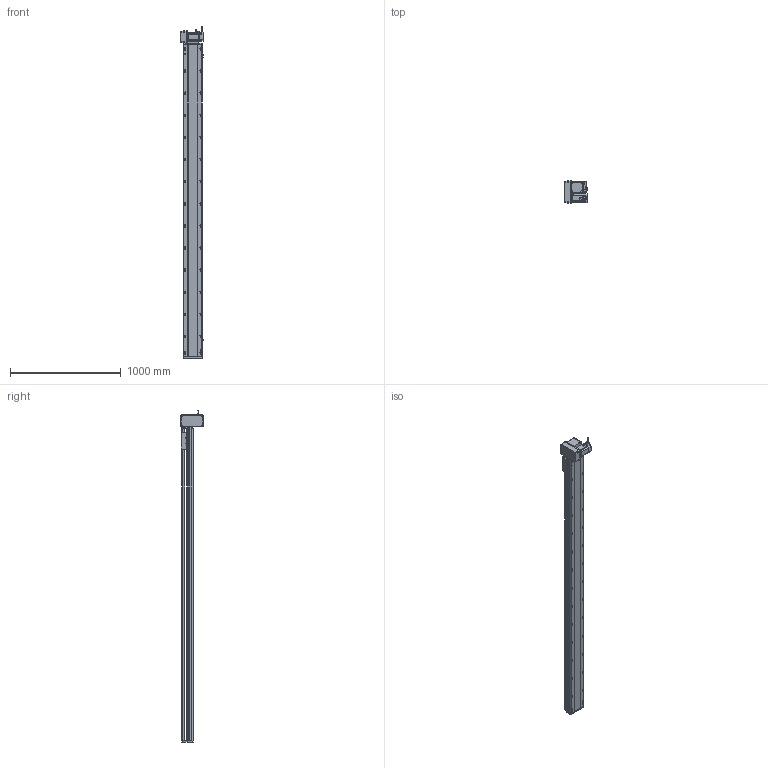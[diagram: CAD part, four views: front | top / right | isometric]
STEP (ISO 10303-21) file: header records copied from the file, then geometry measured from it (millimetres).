
FILE_DESCRIPTION (( 'STEP AP214' ), '1' );
FILE_NAME ('RTB17S-XX-2550-LM-M75-C4.STEP', '2025-12-12T00:47:09', ( '' ), ( '' ), 'SwSTEP 2.0', 'SolidWorks 2018', '' );
FILE_SCHEMA (( 'AUTOMOTIVE_DESIGN' ));
Length unit declared in the file: millimetre
Products named in the file (15): RTB22S-GY-017P^RTB17S-LM-々湍釱蚾饜-750W_RTB17S-XX-XX-LM-M75-C4; RTH13-BL-012覜茼え俋离^RTB17S-賑釱_RTB17S-XX-XX-LM-M75-C4; RTB17S-LM-々湍釱蚾饜-750W^RTB17S-XX-XX-LM-M75-C4; RTB17-R-011菁釱^RTB17S-XX-XX-LM-M75-C4; RTB17S-L-004-賑釱^RTB17S-賑釱_RTB17S-XX-XX-LM-M75-C4; RTB17S-賑釱^RTB17S-XX-XX-LM-M75-C4; RTB22S-GY-018P^RTB17S-LM-々湍釱蚾饜-750W_RTB17S-XX-XX-LM-M75-C4; RTB17S-L-001-耜醱啣^RTB17S-XX-XX-LM-M75-C4; RTB17S-XX-2550-LM-M75-C4; 750W萇儂^RTB17S-XX-XX-LM-M75-C4; RTB22S-GY-005P^RTB17S-LM-々湍釱蚾饜-750W_RTB17S-XX-XX-LM-M75-C4; RTB17S-L-014-T20-P75--々湍釱^RTB17S-LM-々湍釱蚾饜-750W_RTB17S-XX-XX-LM-M75-C4; RTB17S-L-007奻裔^RTB17S-XX-XX-LM-M75-C4; EE672^RTB17S-XX-XX-LM-M75-C4; RTB22S-GY-008-M75--萇儂啣^RTB17S-LM-々湍釱蚾饜-750W_RTB17S-XX-XX-LM-M75-C4
Assembly tree (17 placements, depth 3):
  RTB17S-XX-2550-LM-M75-C4
    RTB17-R-011菁釱^RTB17S-XX-XX-LM-M75-C4
    EE672^RTB17S-XX-XX-LM-M75-C4  x3
    RTB17S-L-001-耜醱啣^RTB17S-XX-XX-LM-M75-C4
    RTB17S-賑釱^RTB17S-XX-XX-LM-M75-C4
      RTB17S-L-004-賑釱^RTB17S-賑釱_RTB17S-XX-XX-LM-M75-C4
      RTH13-BL-012覜茼え俋离^RTB17S-賑釱_RTB17S-XX-XX-LM-M75-C4
    RTB17S-L-007奻裔^RTB17S-XX-XX-LM-M75-C4
    750W萇儂^RTB17S-XX-XX-LM-M75-C4
    RTB17S-LM-々湍釱蚾饜-750W^RTB17S-XX-XX-LM-M75-C4
      RTB17S-L-014-T20-P75--々湍釱^RTB17S-LM-々湍釱蚾饜-750W_RTB17S-XX-XX-LM-M75-C4
      RTB22S-GY-005P^RTB17S-LM-々湍釱蚾饜-750W_RTB17S-XX-XX-LM-M75-C4
      RTB22S-GY-017P^RTB17S-LM-々湍釱蚾饜-750W_RTB17S-XX-XX-LM-M75-C4  x2
      RTB22S-GY-008-M75--萇儂啣^RTB17S-LM-々湍釱蚾饜-750W_RTB17S-XX-XX-LM-M75-C4
      RTB22S-GY-018P^RTB17S-LM-々湍釱蚾饜-750W_RTB17S-XX-XX-LM-M75-C4
Bounding box: 210.4 x 200 x 3002.2 mm (x, y, z)
Volume: 21890435.3 mm3; surface area: 3974829.3 mm2
Topology: 17 solids, 17 shells, 2217 faces, 6214 edges, 4022 vertices
Faces by surface type: plane 986, cylinder 815, bspline 294, cone 110, sphere 8, torus 4
Entity records: 64246 total; most frequent: CARTESIAN_POINT 19078, ORIENTED_EDGE 9272, DIRECTION 8582, EDGE_CURVE 4636, AXIS2_PLACEMENT_3D 3042, VERTEX_POINT 3026, VECTOR 2498, LINE 2498
